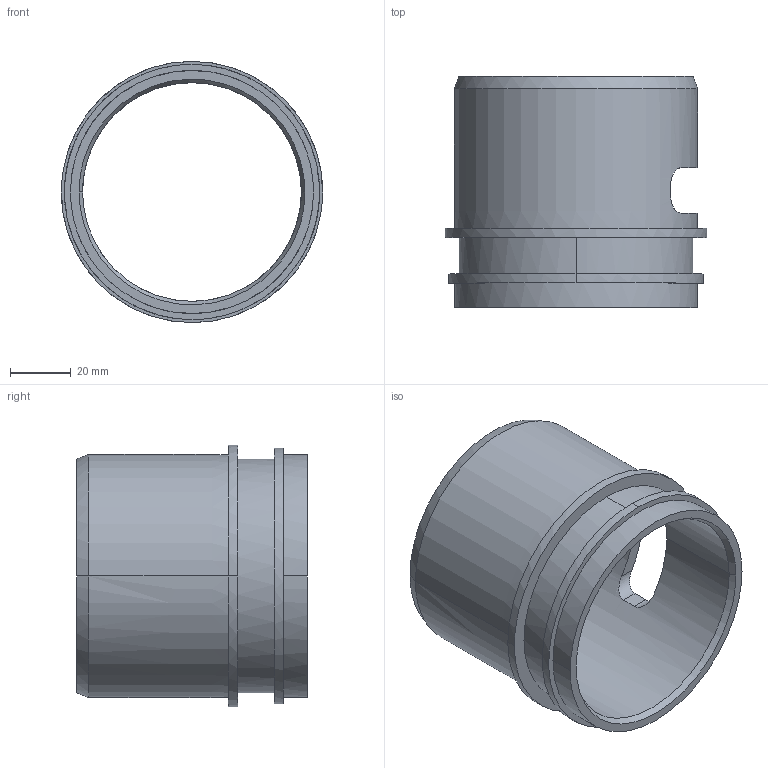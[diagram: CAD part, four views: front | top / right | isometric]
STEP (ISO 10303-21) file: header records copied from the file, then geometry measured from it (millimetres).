
FILE_DESCRIPTION(('STEP AP203'),'1');
FILE_NAME('Ring.stp','2019-02-15T08:23:06',(' '),(' '),'Spatial InterOp 3D',' ',' ');
FILE_SCHEMA(('CONFIG_CONTROL_DESIGN'));
Length unit declared in the file: millimetre
Products named in the file (1): 1
Bounding box: 86 x 76 x 86 mm (x, y, z)
Volume: 67886.8 mm3; surface area: 39982.3 mm2
Topology: 1 solids, 1 shells, 30 faces, 74 edges, 48 vertices
Faces by surface type: revolution 20, bspline 10
Entity records: 1812 total; most frequent: CARTESIAN_POINT 1226, ORIENTED_EDGE 148, B_SPLINE_CURVE_WITH_KNOTS 75, EDGE_CURVE 74, VERTEX_POINT 48, EDGE_LOOP 36, ADVANCED_FACE 30, FACE_OUTER_BOUND 30
